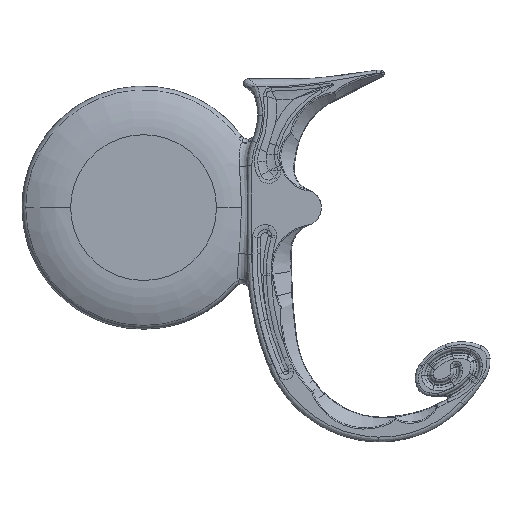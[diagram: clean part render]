
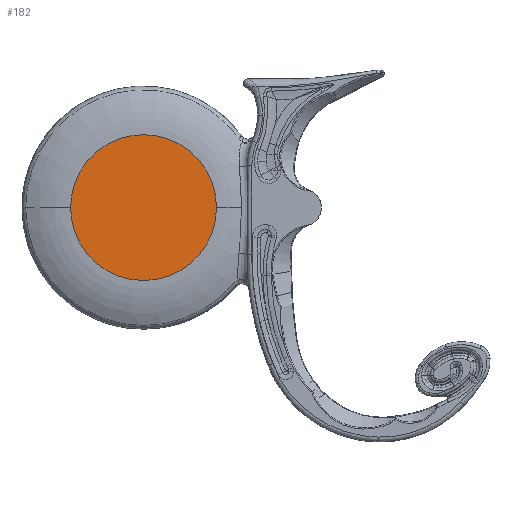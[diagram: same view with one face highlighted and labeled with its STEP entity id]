
A CAD part, top view. The second image highlights one B-rep face of the part: STEP entity #182.
In plain terms, the highlighted planar face has unit normal (0, 0, 1).
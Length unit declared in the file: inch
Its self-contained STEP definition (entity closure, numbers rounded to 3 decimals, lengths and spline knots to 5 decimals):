
#182 = ADVANCED_FACE ( 'NONE', ( #4848 ), #14325, .F. ) ;
#808 = CARTESIAN_POINT ( 'NONE',  ( -3.75, 0., 1.4375 ) ) ;
#2822 = CARTESIAN_POINT ( 'NONE',  ( 3.75, 0., 1.4375 ) ) ;
#2939 = VERTEX_POINT ( 'NONE', #808 ) ;
#3049 = DIRECTION ( 'NONE',  ( 0., 0., -1. ) ) ;
#3517 = EDGE_CURVE ( 'NONE', #4035, #2939, #14469, .T. ) ;
#4035 = VERTEX_POINT ( 'NONE', #2822 ) ;
#4078 = EDGE_LOOP ( 'NONE', ( #10027, #6010 ) ) ;
#4287 = DIRECTION ( 'NONE',  ( -1., 0., 0. ) ) ;
#4615 = CIRCLE ( 'NONE', #10658, 3.75 ) ;
#4848 = FACE_OUTER_BOUND ( 'NONE', #4078, .T. ) ;
#5321 = DIRECTION ( 'NONE',  ( -1., 0., 0. ) ) ;
#6010 = ORIENTED_EDGE ( 'NONE', *, *, #3517, .F. ) ;
#6607 = CARTESIAN_POINT ( 'NONE',  ( 0., 0., 1.4375 ) ) ;
#7286 = CARTESIAN_POINT ( 'NONE',  ( 0., 0., 1.4375 ) ) ;
#8459 = DIRECTION ( 'NONE',  ( -1., 0., 0. ) ) ;
#9715 = AXIS2_PLACEMENT_3D ( 'NONE', #7286, #12837, #8459 ) ;
#10027 = ORIENTED_EDGE ( 'NONE', *, *, #14093, .F. ) ;
#10658 = AXIS2_PLACEMENT_3D ( 'NONE', #6607, #12249, #4287 ) ;
#10905 = CARTESIAN_POINT ( 'NONE',  ( 0., 0., 1.4375 ) ) ;
#12249 = DIRECTION ( 'NONE',  ( 0., 0., -1. ) ) ;
#12837 = DIRECTION ( 'NONE',  ( 0., 0., -1. ) ) ;
#12947 = AXIS2_PLACEMENT_3D ( 'NONE', #10905, #3049, #5321 ) ;
#14093 = EDGE_CURVE ( 'NONE', #2939, #4035, #4615, .T. ) ;
#14325 = PLANE ( 'NONE',  #12947 ) ;
#14469 = CIRCLE ( 'NONE', #9715, 3.75 ) ;
